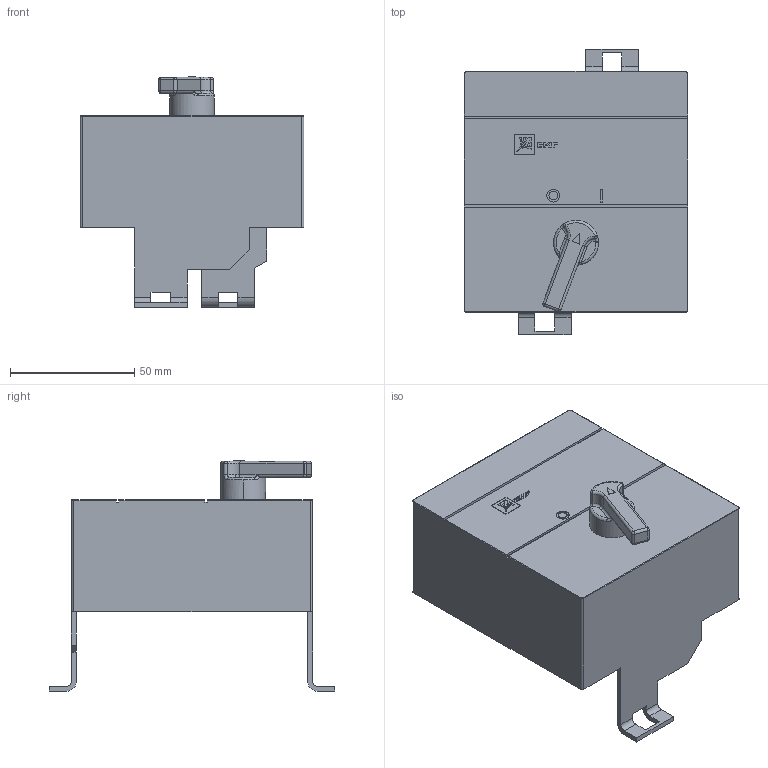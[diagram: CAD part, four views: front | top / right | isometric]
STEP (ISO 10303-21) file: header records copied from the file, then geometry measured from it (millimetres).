
FILE_DESCRIPTION (( 'STEP AP214' ), '1' );
FILE_NAME ('Ýëåêòðîïðèâîä CD-99 125-160À.STEP', '2018-06-21T10:15:02', ( '' ), ( '' ), 'SwSTEP 2.0', 'SolidWorks 2017', '' );
FILE_SCHEMA (( 'AUTOMOTIVE_DESIGN' ));
Length unit declared in the file: millimetre
Products named in the file (1): Ýëåêòðîïðèâîä CD-99 125-160À
Bounding box: 90 x 115 x 92.7 mm (x, y, z)
Volume: 400961.6 mm3; surface area: 40397.2 mm2
Topology: 1 solids, 1 shells, 206 faces, 547 edges, 350 vertices
Faces by surface type: plane 113, cylinder 55, bspline 18, torus 13, sphere 7
Entity records: 7161 total; most frequent: CARTESIAN_POINT 1995, ORIENTED_EDGE 1082, DIRECTION 1006, EDGE_CURVE 541, LINE 366, VECTOR 366, VERTEX_POINT 347, AXIS2_PLACEMENT_3D 320
